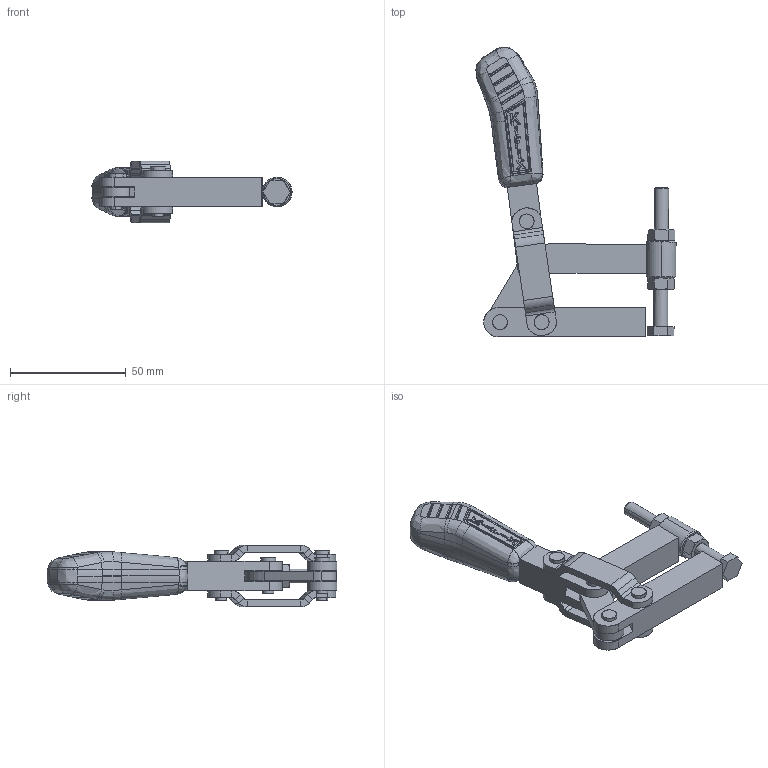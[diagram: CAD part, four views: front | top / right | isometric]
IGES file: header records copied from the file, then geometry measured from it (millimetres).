
Start section: SolidWorks IGES file using analytic representation for surfaces
Global section: file name: C:\Projetos\Grampos\KF-MP\KF-01 MP\KF-01 MP.IGS; native system: SolidWorks 2014; preprocessor: SolidWorks 2014; author: Ricardo; date: 150716.160507; units: millimetre
Bounding box: 86.33 x 125.13 x 26.7 mm (x, y, z)
Surface area: 27418.3 mm2 (no closed solid volume)
Topology: 0 solids, 0 shells, 877 faces, 7987 edges, 7925 vertices
Faces by surface type: bspline 521, revolution 356
